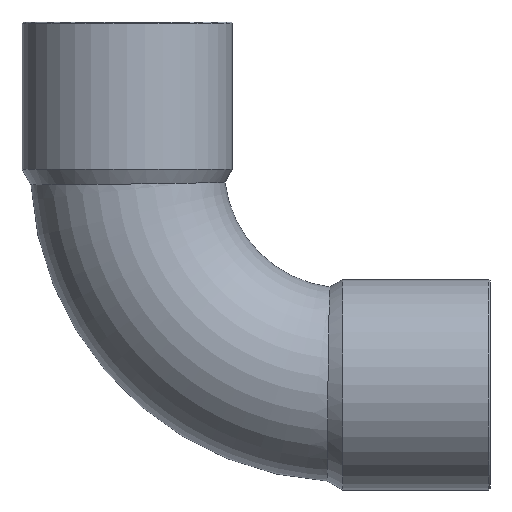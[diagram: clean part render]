
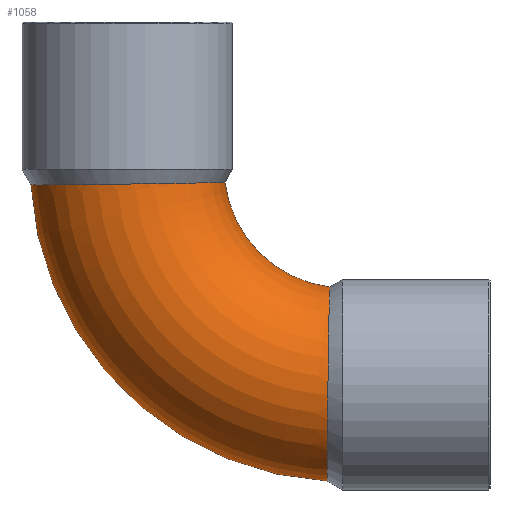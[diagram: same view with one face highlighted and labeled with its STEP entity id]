
A CAD part, front view. The second image highlights one B-rep face of the part: STEP entity #1058.
In plain terms, the highlighted toroidal (fillet/blend) face has major radius 18 mm and minor radius 8 mm.
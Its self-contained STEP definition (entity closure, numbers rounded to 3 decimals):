
#49=CARTESIAN_POINT('',(-3.923,0.,-1.472));
#50=VERTEX_POINT('',#49);
#51=CARTESIAN_POINT('',(20.563,0.,-25.958));
#52=VERTEX_POINT('',#51);
#53=CARTESIAN_POINT('',(22.035,0.,0.0));
#54=DIRECTION('',(0.0,-1.0,0.0));
#55=DIRECTION('',(0.0,0.0,-1.0));
#56=AXIS2_PLACEMENT_3D('',#53,#54,#55);
#57=CIRCLE('',#56,26.0);
#58=EDGE_CURVE('',#50,#52,#57,.T.);
#60=CARTESIAN_POINT('',(12.115,0.,-1.262));
#61=VERTEX_POINT('',#60);
#85=CARTESIAN_POINT('',(20.773,0.,-9.92));
#86=VERTEX_POINT('',#85);
#87=CARTESIAN_POINT('',(22.035,0.,0.0));
#88=DIRECTION('',(0.0,1.0,0.0));
#89=DIRECTION('',(0.0,0.0,-1.0));
#90=AXIS2_PLACEMENT_3D('',#87,#88,#89);
#91=CIRCLE('',#90,10.0);
#92=EDGE_CURVE('',#86,#61,#91,.T.);
#224=CARTESIAN_POINT('',(12.115,0.,-1.262));
#225=CARTESIAN_POINT('',(12.115,-0.068,-1.262));
#226=CARTESIAN_POINT('',(12.114,-0.136,-1.262));
#227=CARTESIAN_POINT('',(12.086,-1.243,-1.262));
#228=CARTESIAN_POINT('',(11.856,-2.267,-1.268));
#229=CARTESIAN_POINT('',(11.014,-4.174,-1.288));
#230=CARTESIAN_POINT('',(10.409,-5.038,-1.301));
#231=CARTESIAN_POINT('',(8.9,-6.486,-1.33));
#232=CARTESIAN_POINT('',(8.011,-7.056,-1.346));
#233=CARTESIAN_POINT('',(6.064,-7.824,-1.375));
#234=CARTESIAN_POINT('',(5.025,-8.014,-1.389));
#235=CARTESIAN_POINT('',(2.934,-7.985,-1.413));
#236=CARTESIAN_POINT('',(1.903,-7.767,-1.424));
#237=CARTESIAN_POINT('',(-0.017,-6.949,-1.442));
#238=CARTESIAN_POINT('',(-0.887,-6.357,-1.449));
#239=CARTESIAN_POINT('',(-2.35,-4.873,-1.461));
#240=CARTESIAN_POINT('',(-2.93,-3.997,-1.465));
#241=CARTESIAN_POINT('',(-3.72,-2.071,-1.471));
#242=CARTESIAN_POINT('',(-3.923,-1.041,-1.472));
#243=CARTESIAN_POINT('',(-3.923,0.,-1.472));
#244=B_SPLINE_CURVE_WITH_KNOTS('',3,(#224,#225,#226,#227,#228,#229,#230,#231,#232,#233,#234,#235,#236,#237,#238,#239,#240,#241,#242,#243),.UNSPECIFIED.,.F.,.U.,(4,2,2,2,2,2,2,2,2,4),(-2.524,-2.504,-2.192,-1.878,-1.564,-1.25,-0.937,-0.624,-0.312,0.0),.UNSPECIFIED.);
#245=EDGE_CURVE('',#61,#50,#244,.T.);
#1025=CARTESIAN_POINT('',(22.035,0.,0.0));
#1026=DIRECTION('',(0.0,-1.0,0.0));
#1027=DIRECTION('',(0.0,0.0,-1.0));
#1028=AXIS2_PLACEMENT_3D('',#1025,#1026,#1027);
#1029=TOROIDAL_SURFACE('',#1028,18.0,8.0);
#1030=ORIENTED_EDGE('',*,*,#58,.T.);
#1031=CARTESIAN_POINT('',(20.563,0.,-25.958));
#1032=CARTESIAN_POINT('',(20.563,-0.589,-25.958));
#1033=CARTESIAN_POINT('',(20.563,-1.177,-25.893));
#1034=CARTESIAN_POINT('',(20.565,-2.327,-25.635));
#1035=CARTESIAN_POINT('',(20.566,-2.886,-25.442));
#1036=CARTESIAN_POINT('',(20.572,-4.361,-24.744));
#1037=CARTESIAN_POINT('',(20.576,-5.206,-24.118));
#1038=CARTESIAN_POINT('',(20.589,-6.612,-22.577));
#1039=CARTESIAN_POINT('',(20.597,-7.157,-21.675));
#1040=CARTESIAN_POINT('',(20.616,-7.873,-19.711));
#1041=CARTESIAN_POINT('',(20.627,-8.036,-18.667));
#1042=CARTESIAN_POINT('',(20.652,-7.951,-16.576));
#1043=CARTESIAN_POINT('',(20.666,-7.705,-15.548));
#1044=CARTESIAN_POINT('',(20.696,-6.833,-13.646));
#1045=CARTESIAN_POINT('',(20.711,-6.217,-12.79));
#1046=CARTESIAN_POINT('',(20.739,-4.695,-11.366));
#1047=CARTESIAN_POINT('',(20.752,-3.805,-10.811));
#1048=CARTESIAN_POINT('',(20.769,-1.928,-10.097));
#1049=CARTESIAN_POINT('',(20.773,-0.968,-9.92));
#1050=CARTESIAN_POINT('',(20.773,0.,-9.92));
#1051=B_SPLINE_CURVE_WITH_KNOTS('',3,(#1031,#1032,#1033,#1034,#1035,#1036,#1037,#1038,#1039,#1040,#1041,#1042,#1043,#1044,#1045,#1046,#1047,#1048,#1049,#1050),.UNSPECIFIED.,.F.,.U.,(4,2,2,2,2,2,2,2,2,4),(-5.048,-4.871,-4.694,-4.381,-4.068,-3.754,-3.44,-3.127,-2.815,-2.524),.UNSPECIFIED.);
#1052=EDGE_CURVE('',#52,#86,#1051,.T.);
#1053=ORIENTED_EDGE('',*,*,#1052,.T.);
#1054=ORIENTED_EDGE('',*,*,#92,.T.);
#1055=ORIENTED_EDGE('',*,*,#245,.T.);
#1056=EDGE_LOOP('',(#1030,#1053,#1054,#1055));
#1057=FACE_OUTER_BOUND('',#1056,.T.);
#1058=ADVANCED_FACE('',(#1057),#1029,.T.);
